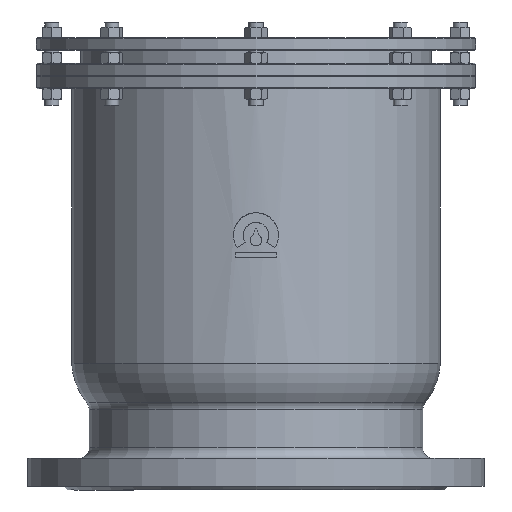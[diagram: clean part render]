
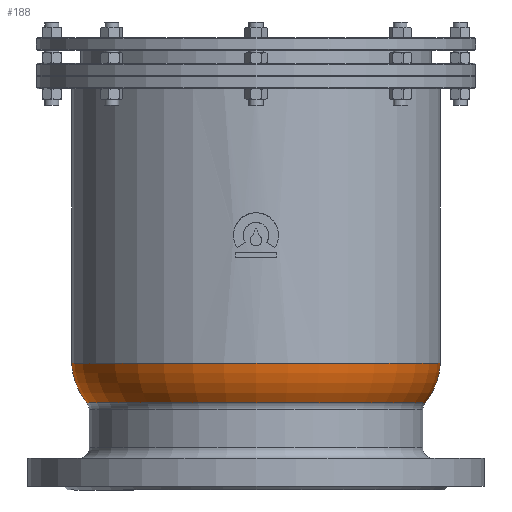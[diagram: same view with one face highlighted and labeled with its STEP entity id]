
A CAD part, front view. The second image highlights one B-rep face of the part: STEP entity #188.
In plain terms, the highlighted toroidal (fillet/blend) face has major radius 130.147 mm and minor radius 80 mm.
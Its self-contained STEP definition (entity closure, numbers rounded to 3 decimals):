
#188=ADVANCED_FACE('',(#5206,#5208),#5210,.T.);
#5206=FACE_OUTER_BOUND('',#5207,.T.);
#5207=EDGE_LOOP('',(#9405));
#5208=FACE_OUTER_BOUND('',#5209,.T.);
#5209=EDGE_LOOP('',(#9406));
#5210=TOROIDAL_SURFACE('',#5211,130.147,80.);
#5211=AXIS2_PLACEMENT_3D('',#5212,#5213,#5214);
#5212=CARTESIAN_POINT('',(0.,0.,149.081));
#5213=DIRECTION('',(0.,0.,1.));
#5214=DIRECTION('',(1.,0.,0.));
#9405=ORIENTED_EDGE('',*,*,#11654,.F.);
#9406=ORIENTED_EDGE('',*,*,#11697,.T.);
#11654=EDGE_CURVE('',#12815,#12815,#12816,.T.);
#11697=EDGE_CURVE('',#12887,#12887,#12888,.T.);
#12815=VERTEX_POINT('',#14692);
#12816=CIRCLE('',#14693,210.);
#12887=VERTEX_POINT('',#15384);
#12888=CIRCLE('',#15385,192.628);
#14692=CARTESIAN_POINT('',(210.,0.,144.237));
#14693=AXIS2_PLACEMENT_3D('',#14694,#14695,#14696);
#14694=CARTESIAN_POINT('',(0.,0.,144.237));
#14695=DIRECTION('',(0.,0.,1.));
#14696=DIRECTION('',(1.,0.,0.));
#15384=CARTESIAN_POINT('',(192.628,0.,99.12));
#15385=AXIS2_PLACEMENT_3D('',#15386,#15387,#15388);
#15386=CARTESIAN_POINT('',(0.,0.,99.12));
#15387=DIRECTION('',(0.,0.,1.));
#15388=DIRECTION('',(1.,0.,0.));
